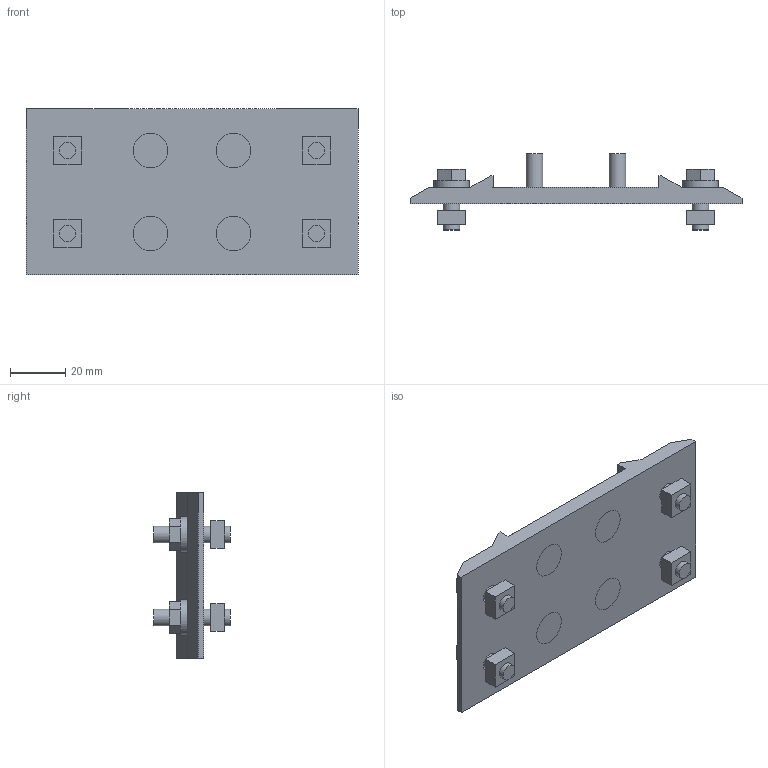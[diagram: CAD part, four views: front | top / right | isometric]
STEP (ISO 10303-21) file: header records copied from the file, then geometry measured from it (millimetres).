
FILE_DESCRIPTION((''),'2;1');
FILE_NAME('C:\Documents and Settings\古川典政\My Documents\Inventor\HP用\MasterData\BRACKET\M6\ABJF-6060-6.stp','2008-07-31T09:15:07',(''),(''),'Autodesk Inventor 2008','Autodesk Inventor 2008','');
FILE_SCHEMA(('CONFIG_CONTROL_DESIGN'));
Length unit declared in the file: millimetre
Products named in the file (14): ABJF-6060-6; ABJF-6060-61; ABJF-6060-62; ABJF-6060-63; ABJF-6060-64; ABJF-6060-65; ABJF-6060-66; ABJF-6060-67; ABJF-6060-68; ABJF-6060-69; ABJF-6060-610; ABJF-6060-611; ABJF-6060-612; ABJF-6060-613
Assembly tree (13 placements, depth 2):
  ABJF-6060-6
    ABJF-6060-61
    ABJF-6060-62
    ABJF-6060-63
    ABJF-6060-64
    ABJF-6060-65
    ABJF-6060-66
    ABJF-6060-67
    ABJF-6060-68
    ABJF-6060-69
    ABJF-6060-610
    ABJF-6060-611
    ABJF-6060-612
    ABJF-6060-613
Bounding box: 120 x 27.5 x 60 mm (x, y, z)
Volume: 49856 mm3; surface area: 24766.2 mm2
Topology: 13 solids, 13 shells, 128 faces, 278 edges, 188 vertices
Faces by surface type: plane 92, cylinder 20, bspline 10, cone 6
Full cylindrical faces by diameter (mm): 6 x8, 6.4 x4, 7 x4, 13 x4
Entity records: 3735 total; most frequent: CARTESIAN_POINT 723, DIRECTION 580, ORIENTED_EDGE 452, EDGE_CURVE 226, AXIS2_PLACEMENT_3D 209, EDGE_LOOP 200, VERTEX_POINT 172, VECTOR 162
